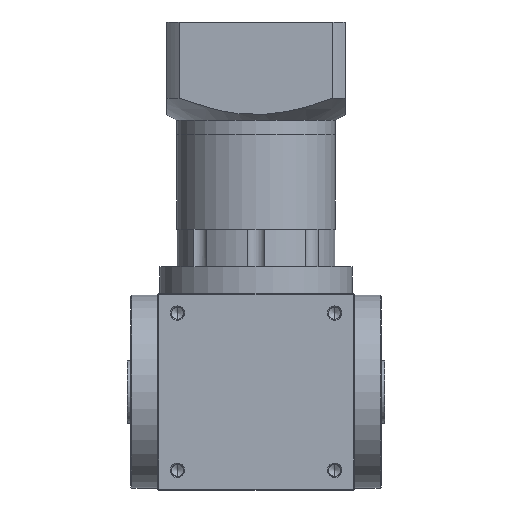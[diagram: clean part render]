
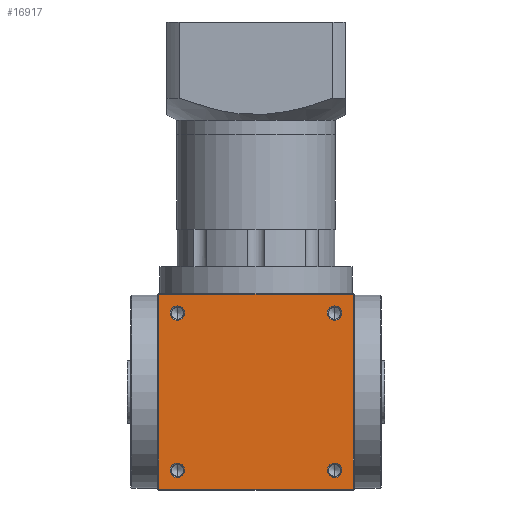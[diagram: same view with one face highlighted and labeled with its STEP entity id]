
A CAD part, front view. The second image highlights one B-rep face of the part: STEP entity #16917.
In plain terms, the highlighted planar face has unit normal (0, -1, 0).
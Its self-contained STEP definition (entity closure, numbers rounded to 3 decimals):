
#404 = CIRCLE ( 'NONE', #37370, 4.025 ) ;
#801 = DIRECTION ( 'NONE',  ( 0., 0., 1. ) ) ;
#1399 = PLANE ( 'NONE',  #17671 ) ;
#1569 = EDGE_CURVE ( 'NONE', #30864, #4763, #33620, .T. ) ;
#1718 = LINE ( 'NONE', #2870, #1999 ) ;
#1999 = VECTOR ( 'NONE', #16660, 1000. ) ;
#2176 = EDGE_CURVE ( 'NONE', #14619, #29404, #44335, .T. ) ;
#2870 = CARTESIAN_POINT ( 'NONE',  ( -55., -55., 109.5 ) ) ;
#3159 = VECTOR ( 'NONE', #53024, 1000. ) ;
#4145 = FACE_BOUND ( 'NONE', #51543, .T. ) ;
#4148 = CIRCLE ( 'NONE', #4640, 4.025 ) ;
#4198 = FACE_BOUND ( 'NONE', #39947, .T. ) ;
#4333 = FACE_BOUND ( 'NONE', #19367, .T. ) ;
#4637 = DIRECTION ( 'NONE',  ( 0., 1., 0. ) ) ;
#4640 = AXIS2_PLACEMENT_3D ( 'NONE', #30290, #30283, #30249 ) ;
#4748 = EDGE_CURVE ( 'NONE', #25865, #31451, #4148, .T. ) ;
#4763 = VERTEX_POINT ( 'NONE', #30521 ) ;
#5033 = CARTESIAN_POINT ( 'NONE',  ( -55., -55., 110. ) ) ;
#5116 = FACE_OUTER_BOUND ( 'NONE', #26834, .T. ) ;
#5455 = ORIENTED_EDGE ( 'NONE', *, *, #5806, .F. ) ;
#5639 = CARTESIAN_POINT ( 'NONE',  ( -48.025, -55., 99. ) ) ;
#5802 = FACE_BOUND ( 'NONE', #33839, .T. ) ;
#5806 = EDGE_CURVE ( 'NONE', #51719, #54602, #404, .T. ) ;
#7142 = CIRCLE ( 'NONE', #14981, 4.025 ) ;
#7439 = VERTEX_POINT ( 'NONE', #42621 ) ;
#7614 = VERTEX_POINT ( 'NONE', #36792 ) ;
#8603 = VERTEX_POINT ( 'NONE', #49885 ) ;
#9375 = AXIS2_PLACEMENT_3D ( 'NONE', #45976, #21284, #49867 ) ;
#11249 = CIRCLE ( 'NONE', #36529, 4.025 ) ;
#12901 = ORIENTED_EDGE ( 'NONE', *, *, #49201, .F. ) ;
#14619 = VERTEX_POINT ( 'NONE', #52635 ) ;
#14981 = AXIS2_PLACEMENT_3D ( 'NONE', #26227, #53973, #30519 ) ;
#15675 = CARTESIAN_POINT ( 'NONE',  ( -54.5, -55., 109.5 ) ) ;
#16171 = EDGE_CURVE ( 'NONE', #4763, #30864, #23967, .T. ) ;
#16660 = DIRECTION ( 'NONE',  ( 1., 0., 0. ) ) ;
#16701 = CARTESIAN_POINT ( 'NONE',  ( -55., -55., 0.5 ) ) ;
#16907 = ORIENTED_EDGE ( 'NONE', *, *, #29594, .F. ) ;
#16917 = ADVANCED_FACE ( 'NONE', ( #4333, #4145, #5802, #4198, #5116 ), #1399, .F. ) ;
#17671 = AXIS2_PLACEMENT_3D ( 'NONE', #5033, #4637, #801 ) ;
#17674 = DIRECTION ( 'NONE',  ( 0., 0., 1. ) ) ;
#17785 = ORIENTED_EDGE ( 'NONE', *, *, #2176, .F. ) ;
#18025 = AXIS2_PLACEMENT_3D ( 'NONE', #33973, #33727, #33598 ) ;
#19367 = EDGE_LOOP ( 'NONE', ( #5455, #51300 ) ) ;
#19423 = DIRECTION ( 'NONE',  ( 1., 0., 0. ) ) ;
#19467 = DIRECTION ( 'NONE',  ( 0., -1., 0. ) ) ;
#19537 = CARTESIAN_POINT ( 'NONE',  ( -44., -55., 99. ) ) ;
#20628 = VERTEX_POINT ( 'NONE', #15675 ) ;
#21284 = DIRECTION ( 'NONE',  ( 0., -1., 0. ) ) ;
#22348 = CARTESIAN_POINT ( 'NONE',  ( 48.025, -55., 11. ) ) ;
#22639 = CARTESIAN_POINT ( 'NONE',  ( -39.975, -55., 11. ) ) ;
#23967 = CIRCLE ( 'NONE', #18025, 4.025 ) ;
#24900 = CARTESIAN_POINT ( 'NONE',  ( 44., -55., 11. ) ) ;
#25865 = VERTEX_POINT ( 'NONE', #42852 ) ;
#26227 = CARTESIAN_POINT ( 'NONE',  ( -44., -55., 99. ) ) ;
#26834 = EDGE_LOOP ( 'NONE', ( #46453, #44174, #12901, #29192 ) ) ;
#26949 = VECTOR ( 'NONE', #30229, 1000. ) ;
#27021 = LINE ( 'NONE', #16701, #26949 ) ;
#27730 = CARTESIAN_POINT ( 'NONE',  ( 39.975, -55., 99. ) ) ;
#29192 = ORIENTED_EDGE ( 'NONE', *, *, #53694, .F. ) ;
#29224 = DIRECTION ( 'NONE',  ( 1., 0., 0. ) ) ;
#29404 = VERTEX_POINT ( 'NONE', #5639 ) ;
#29594 = EDGE_CURVE ( 'NONE', #31451, #25865, #30268, .T. ) ;
#30229 = DIRECTION ( 'NONE',  ( -1., 0., 0. ) ) ;
#30249 = DIRECTION ( 'NONE',  ( 1., 0., 0. ) ) ;
#30268 = CIRCLE ( 'NONE', #9375, 4.025 ) ;
#30283 = DIRECTION ( 'NONE',  ( 0., -1., 0. ) ) ;
#30290 = CARTESIAN_POINT ( 'NONE',  ( 44., -55., 99. ) ) ;
#30519 = DIRECTION ( 'NONE',  ( 1., 0., 0. ) ) ;
#30521 = CARTESIAN_POINT ( 'NONE',  ( -48.025, -55., 11. ) ) ;
#30743 = CARTESIAN_POINT ( 'NONE',  ( -54.5, -55., 110. ) ) ;
#30864 = VERTEX_POINT ( 'NONE', #22639 ) ;
#31451 = VERTEX_POINT ( 'NONE', #27730 ) ;
#32675 = AXIS2_PLACEMENT_3D ( 'NONE', #19537, #19467, #19423 ) ;
#33598 = DIRECTION ( 'NONE',  ( 1., 0., 0. ) ) ;
#33620 = CIRCLE ( 'NONE', #37386, 4.025 ) ;
#33727 = DIRECTION ( 'NONE',  ( 0., -1., 0. ) ) ;
#33839 = EDGE_LOOP ( 'NONE', ( #17785, #42707 ) ) ;
#33973 = CARTESIAN_POINT ( 'NONE',  ( -44., -55., 11. ) ) ;
#36529 = AXIS2_PLACEMENT_3D ( 'NONE', #24900, #52874, #29224 ) ;
#36792 = CARTESIAN_POINT ( 'NONE',  ( -54.5, -55., 0.5 ) ) ;
#37370 = AXIS2_PLACEMENT_3D ( 'NONE', #53659, #53647, #53559 ) ;
#37386 = AXIS2_PLACEMENT_3D ( 'NONE', #41513, #41344, #41294 ) ;
#38510 = EDGE_CURVE ( 'NONE', #54602, #51719, #11249, .T. ) ;
#39947 = EDGE_LOOP ( 'NONE', ( #51375, #46196 ) ) ;
#40774 = LINE ( 'NONE', #45373, #3159 ) ;
#41294 = DIRECTION ( 'NONE',  ( 1., 0., 0. ) ) ;
#41344 = DIRECTION ( 'NONE',  ( 0., -1., 0. ) ) ;
#41513 = CARTESIAN_POINT ( 'NONE',  ( -44., -55., 11. ) ) ;
#42621 = CARTESIAN_POINT ( 'NONE',  ( 54.5, -55., 109.5 ) ) ;
#42707 = ORIENTED_EDGE ( 'NONE', *, *, #46053, .F. ) ;
#42852 = CARTESIAN_POINT ( 'NONE',  ( 48.025, -55., 99. ) ) ;
#44174 = ORIENTED_EDGE ( 'NONE', *, *, #51135, .F. ) ;
#44335 = CIRCLE ( 'NONE', #32675, 4.025 ) ;
#45373 = CARTESIAN_POINT ( 'NONE',  ( 54.5, -55., 110. ) ) ;
#45976 = CARTESIAN_POINT ( 'NONE',  ( 44., -55., 99. ) ) ;
#46053 = EDGE_CURVE ( 'NONE', #29404, #14619, #7142, .T. ) ;
#46196 = ORIENTED_EDGE ( 'NONE', *, *, #16171, .F. ) ;
#46453 = ORIENTED_EDGE ( 'NONE', *, *, #53169, .F. ) ;
#47994 = CARTESIAN_POINT ( 'NONE',  ( 39.975, -55., 11. ) ) ;
#49142 = VECTOR ( 'NONE', #17674, 1000. ) ;
#49201 = EDGE_CURVE ( 'NONE', #8603, #7614, #27021, .T. ) ;
#49811 = LINE ( 'NONE', #30743, #49142 ) ;
#49867 = DIRECTION ( 'NONE',  ( 1., 0., 0. ) ) ;
#49885 = CARTESIAN_POINT ( 'NONE',  ( 54.5, -55., 0.5 ) ) ;
#50568 = ORIENTED_EDGE ( 'NONE', *, *, #4748, .F. ) ;
#51135 = EDGE_CURVE ( 'NONE', #7614, #20628, #49811, .T. ) ;
#51300 = ORIENTED_EDGE ( 'NONE', *, *, #38510, .F. ) ;
#51375 = ORIENTED_EDGE ( 'NONE', *, *, #1569, .F. ) ;
#51543 = EDGE_LOOP ( 'NONE', ( #50568, #16907 ) ) ;
#51719 = VERTEX_POINT ( 'NONE', #22348 ) ;
#52635 = CARTESIAN_POINT ( 'NONE',  ( -39.975, -55., 99. ) ) ;
#52874 = DIRECTION ( 'NONE',  ( 0., -1., 0. ) ) ;
#53024 = DIRECTION ( 'NONE',  ( 0., 0., -1. ) ) ;
#53169 = EDGE_CURVE ( 'NONE', #20628, #7439, #1718, .T. ) ;
#53559 = DIRECTION ( 'NONE',  ( 1., 0., 0. ) ) ;
#53647 = DIRECTION ( 'NONE',  ( 0., -1., 0. ) ) ;
#53659 = CARTESIAN_POINT ( 'NONE',  ( 44., -55., 11. ) ) ;
#53694 = EDGE_CURVE ( 'NONE', #7439, #8603, #40774, .T. ) ;
#53973 = DIRECTION ( 'NONE',  ( 0., -1., 0. ) ) ;
#54602 = VERTEX_POINT ( 'NONE', #47994 ) ;
